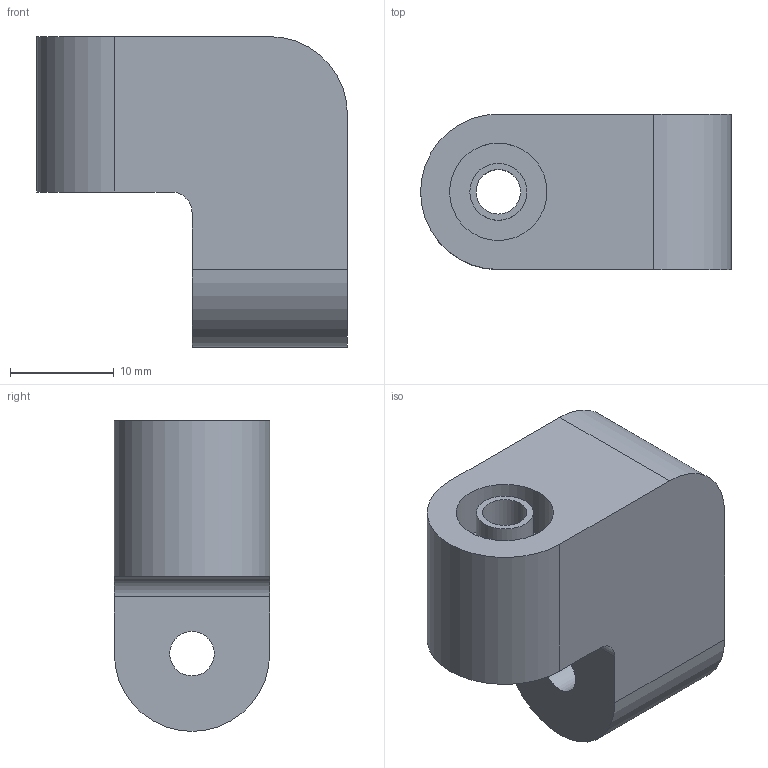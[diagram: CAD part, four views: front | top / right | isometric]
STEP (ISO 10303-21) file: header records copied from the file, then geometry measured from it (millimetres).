
FILE_DESCRIPTION(/* description */ ('STEP AP242 Edition 2','CAx-IF Rec.Pracs.---Representation and Presentation of Product Manufacturing Information (PMI)---4.0---2014-10-13','CAx-IF Rec.Pracs.---3D Tessellated Geometry---0.4---2014-09-14','2;1','CAx-IF Rec.Pracs.---User Defined Attributes---1.5---2016-08-15'),/* implementation_level */ '2;1');
FILE_NAME(/* name */ 'Assembly 1 - Joint 3',/* time_stamp */ '2026-06-23T19:13:02Z',/* author */ (''),/* organization */ (''),/* preprocessor_version */ 'ST-DEVELOPER v20',/* originating_system */ 'ONSHAPE BY PTC INC, 1.216',/* authorisation */ ' ');
FILE_SCHEMA (('AP242_MANAGED_MODEL_BASED_3D_ENGINEERING_MIM_LF { 1 0 10303 442 3 1 4 }'));
Length unit declared in the file: metre
Products named in the file (1): Joint 3
Bounding box: 30 x 15 x 30 mm (x, y, z)
Volume: 8088.5 mm3; surface area: 3695.2 mm2
Topology: 1 solids, 1 shells, 27 faces, 61 edges, 41 vertices
Faces by surface type: plane 17, cylinder 10
Full cylindrical faces by diameter (mm): 4.3 x2, 5.5 x1, 6.5 x1, 9.4 x1, 11 x1
Entity records: 754 total; most frequent: DIRECTION 130, CARTESIAN_POINT 122, ORIENTED_EDGE 108, EDGE_CURVE 54, AXIS2_PLACEMENT_3D 48, EDGE_LOOP 42, FACE_BOUND 42, VERTEX_POINT 40
